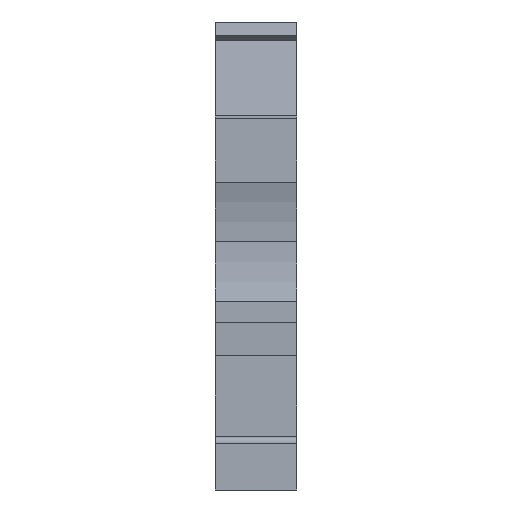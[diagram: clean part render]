
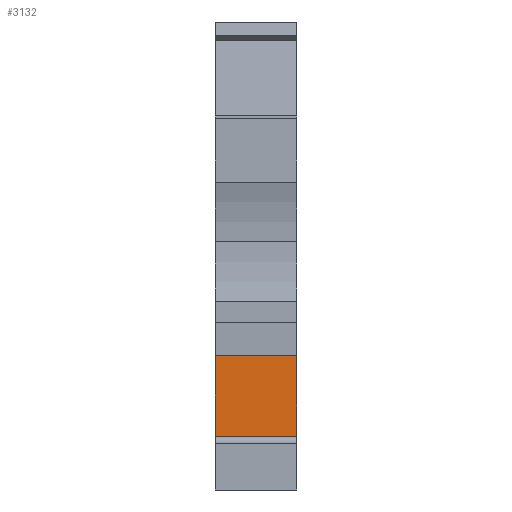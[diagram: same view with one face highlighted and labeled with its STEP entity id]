
A CAD part, front view. The second image highlights one B-rep face of the part: STEP entity #3132.
In plain terms, the highlighted planar face has unit normal (0, -1, 0).
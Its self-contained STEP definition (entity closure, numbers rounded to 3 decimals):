
#1454=CARTESIAN_POINT('',(6.15,3.,10.15));
#1455=VERTEX_POINT('',#1454);
#1462=CARTESIAN_POINT('',(6.15,3.,1.55));
#1463=VERTEX_POINT('',#1462);
#1464=CARTESIAN_POINT('',(6.15,3.,10.15));
#1465=DIRECTION('',(0.,0.,-1.));
#1466=VECTOR('',#1465,8.6);
#1467=LINE('',#1464,#1466);
#1468=EDGE_CURVE('',#1455,#1463,#1467,.T.);
#2583=CARTESIAN_POINT('',(0.,3.,4.05));
#2584=VERTEX_POINT('',#2583);
#2591=CARTESIAN_POINT('',(0.,3.,10.15));
#2592=VERTEX_POINT('',#2591);
#2593=CARTESIAN_POINT('',(0.,3.,10.15));
#2594=DIRECTION('',(0.,0.,-1.));
#2595=VECTOR('',#2594,6.1);
#2596=LINE('',#2593,#2595);
#2597=EDGE_CURVE('',#2592,#2584,#2596,.T.);
#3088=CARTESIAN_POINT('',(0.,3.,10.15));
#3089=DIRECTION('',(1.,-0.,-0.));
#3090=VECTOR('',#3089,6.15);
#3091=LINE('',#3088,#3090);
#3092=EDGE_CURVE('',#2592,#1455,#3091,.T.);
#3100=CARTESIAN_POINT('',(0.,3.,10.15));
#3101=DIRECTION('',(0.,1.,0.));
#3102=DIRECTION('',(1.,0.,0.));
#3103=AXIS2_PLACEMENT_3D('',#3100,#3101,#3102);
#3104=PLANE('',#3103);
#3105=ORIENTED_EDGE('',*,*,#1468,.F.);
#3106=ORIENTED_EDGE('',*,*,#3092,.F.);
#3107=ORIENTED_EDGE('',*,*,#2597,.T.);
#3108=CARTESIAN_POINT('',(1.1,3.,4.05));
#3109=VERTEX_POINT('',#3108);
#3110=CARTESIAN_POINT('',(1.1,3.,4.05));
#3111=DIRECTION('',(-1.,-0.,-0.));
#3112=VECTOR('',#3111,1.1);
#3113=LINE('',#3110,#3112);
#3114=EDGE_CURVE('',#3109,#2584,#3113,.T.);
#3115=ORIENTED_EDGE('',*,*,#3114,.F.);
#3116=CARTESIAN_POINT('',(1.1,3.,1.55));
#3117=VERTEX_POINT('',#3116);
#3118=CARTESIAN_POINT('',(1.1,3.,1.55));
#3119=DIRECTION('',(-0.,-0.,1.));
#3120=VECTOR('',#3119,2.5);
#3121=LINE('',#3118,#3120);
#3122=EDGE_CURVE('',#3117,#3109,#3121,.T.);
#3123=ORIENTED_EDGE('',*,*,#3122,.F.);
#3124=CARTESIAN_POINT('',(1.1,3.,1.55));
#3125=DIRECTION('',(1.,0.,0.));
#3126=VECTOR('',#3125,5.05);
#3127=LINE('',#3124,#3126);
#3128=EDGE_CURVE('',#3117,#1463,#3127,.T.);
#3129=ORIENTED_EDGE('',*,*,#3128,.T.);
#3130=EDGE_LOOP('',(#3105,#3106,#3107,#3115,#3123,#3129));
#3131=FACE_BOUND('',#3130,.T.);
#3132=ADVANCED_FACE('',(#3131),#3104,.F.);
